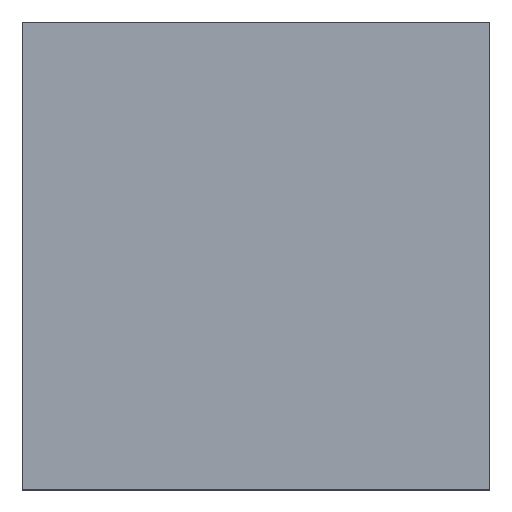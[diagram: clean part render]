
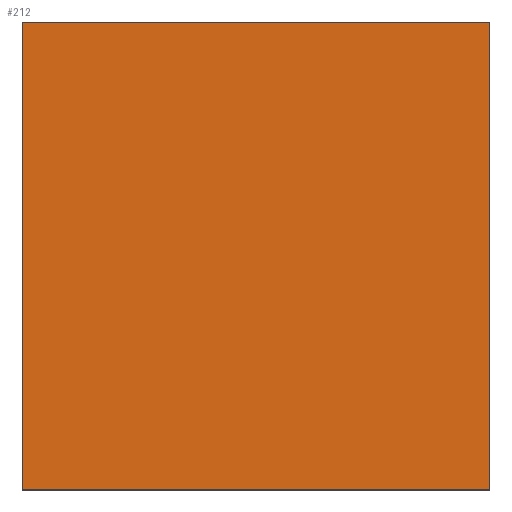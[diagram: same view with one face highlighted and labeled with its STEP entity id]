
A CAD part, top view. The second image highlights one B-rep face of the part: STEP entity #212.
In plain terms, the highlighted planar face has unit normal (0, 0, 1) as drawn and (0, 1, 0) by its records, which use the part's own axes.
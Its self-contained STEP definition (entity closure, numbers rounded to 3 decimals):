
#85=DIRECTION('',(0.,0.,1.));
#86=VECTOR('',#85,2.);
#87=CARTESIAN_POINT('',(-1.,0.45,-1.));
#88=LINE('',#87,#86);
#92=DIRECTION('',(-1.,0.,0.));
#93=VECTOR('',#92,2.);
#94=CARTESIAN_POINT('',(1.,0.45,-1.));
#95=LINE('',#94,#93);
#99=DIRECTION('',(0.,0.,-1.));
#100=VECTOR('',#99,2.);
#101=CARTESIAN_POINT('',(1.,0.45,1.));
#102=LINE('',#101,#100);
#106=DIRECTION('',(1.,0.,0.));
#107=VECTOR('',#106,2.);
#108=CARTESIAN_POINT('',(-1.,0.45,1.));
#109=LINE('',#108,#107);
#121=CARTESIAN_POINT('',(-1.,0.45,-1.));
#122=CARTESIAN_POINT('',(-1.,0.45,1.));
#123=VERTEX_POINT('',#121);
#124=VERTEX_POINT('',#122);
#125=CARTESIAN_POINT('',(1.,0.45,1.));
#126=VERTEX_POINT('',#125);
#127=CARTESIAN_POINT('',(1.,0.45,-1.));
#128=VERTEX_POINT('',#127);
#201=CARTESIAN_POINT('',(0.,0.45,0.));
#202=DIRECTION('',(0.,1.,0.));
#203=DIRECTION('',(1.,0.,0.));
#204=AXIS2_PLACEMENT_3D('',#201,#202,#203);
#205=PLANE('',#204);
#206=ORIENTED_EDGE('',*,*,#153,.F.);
#207=ORIENTED_EDGE('',*,*,#168,.F.);
#208=ORIENTED_EDGE('',*,*,#182,.F.);
#209=ORIENTED_EDGE('',*,*,#195,.F.);
#210=EDGE_LOOP('',(#206,#207,#208,#209));
#211=FACE_OUTER_BOUND('',#210,.F.);
#153=EDGE_CURVE('',#123,#124,#88,.T.);
#168=EDGE_CURVE('',#128,#123,#95,.T.);
#182=EDGE_CURVE('',#126,#128,#102,.T.);
#195=EDGE_CURVE('',#124,#126,#109,.T.);
#212=ADVANCED_FACE('',(#211),#205,.T.);
